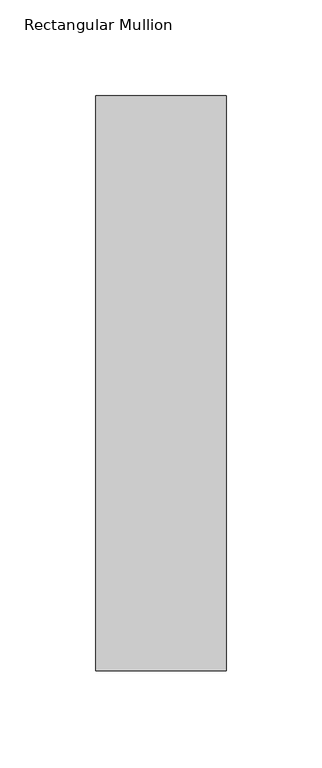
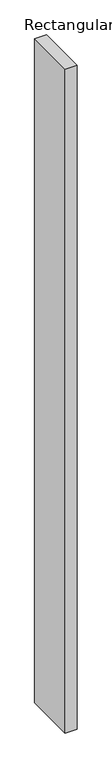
"""IFC4 building model written with IfcOpenShell, lengths in millimetres: member geometry, Rectangular Mullion : DucoSun Cubic Design louvre 300."""

from ifc_helpers import new_model, si_unit, frame, origin, place, context, project, spatial, polyline, outline, extrude, source, transform, mapped, element, save


def rectangular_mullion_2e33dcae(model_context):
    return source(origin(), model_context, "Body", "SweptSolid", [
        extrude(outline(polyline([(0.0, -300.0), (-68.0, -300.0), (-68.0, 0.0), (0.0, 0.0), (0.0, -300.0)])), frame((0.0, 0.0, -4000.0), z_axis=(0.0, 0.0, 1.0), x_axis=(1.0, 0.0, 0.0)), (0.0, 0.0, 1.0), 4000.0),
    ])


if __name__ == "__main__":
    model = new_model("IFC4")
    model_context = context("Model", 3, world=origin())
    ifc_project = project(units=[si_unit("LENGTHUNIT", "METRE", prefix="MILLI")], contexts=[model_context])
    site = spatial("IfcSite", under=ifc_project)
    building = spatial("IfcBuilding", under=site)
    placement = place(None, origin())
    rectangular_mullion_shape = rectangular_mullion_2e33dcae(model_context)
    element("IfcMember", 1, ObjectType="Rectangular Mullion : DucoSun Cubic Design louvre 300", at=placement, inside=building, context=model_context, shape_type="MappedRepresentation", body=[
        mapped(rectangular_mullion_shape, transform((0.0, 0.0, 0.0), x_axis=(1.0, 0.0, 0.0), y_axis=(0.0, 1.0, 0.0), z_axis=(0.0, 0.0, 1.0))),
    ])
    save(model, "model.ifc")
